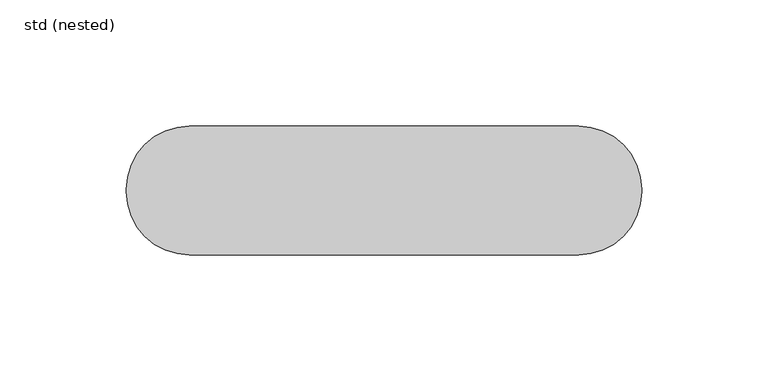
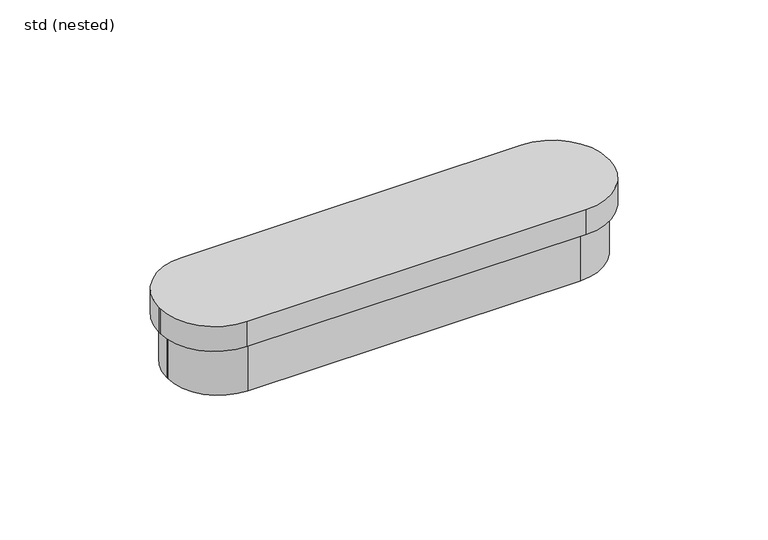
"""IFC4 building model written with IfcOpenShell, lengths in millimetres: sanitary terminal geometry, ZZZ_do not use_PF_WPB_extension ShowerDrain S+_ACO : std (nested)."""

from ifc_helpers import new_model, si_unit, point, frame, frame_2d, origin, place, context, project, spatial, polyline, circle_curve, trimmed, segment, composite_curve, outline, extrude, source, transform, mapped, element, save


def std_nested_d8f77656(model_context):
    return source(origin(), model_context, "Body", "SweptSolid", [
        extrude(outline(composite_curve([segment(trimmed(circle_curve(frame_2d((75.5, -0.5)), 23.0), [point((98.5, -0.5))], [point((75.5, -23.5))], False, "CARTESIAN"), True, "CONTINUOUS"), segment(polyline([(75.5, -23.5), (-75.5, -23.5)]), True, "CONTINUOUS"), segment(trimmed(circle_curve(frame_2d((-75.5, -0.5)), 23.0), [point((-75.5, -23.5))], [point((-98.5, -0.5))], False, "CARTESIAN"), True, "CONTINUOUS"), segment(polyline([(-98.5, -0.5), (-98.5, 0.5)]), True, "CONTINUOUS"), segment(trimmed(circle_curve(frame_2d((-75.5, 0.5)), 23.0), [point((-98.5, 0.5))], [point((-75.5, 23.5))], False, "CARTESIAN"), True, "CONTINUOUS"), segment(polyline([(-75.5, 23.5), (75.5, 23.5)]), True, "CONTINUOUS"), segment(trimmed(circle_curve(frame_2d((75.5, 0.5)), 23.0), [point((75.5, 23.5))], [point((98.5, 0.5))], False, "CARTESIAN"), True, "CONTINUOUS"), segment(polyline([(98.5, 0.5), (98.5, -0.5)]), True, "CONTINUOUS")], self_intersect=False)), frame((0.0, 0.0, -35.0), z_axis=(0.0, 0.0, 1.0), x_axis=(1.0, 0.0, 0.0)), (0.0, 0.0, 1.0), 23.0),
        extrude(outline(composite_curve([segment(trimmed(circle_curve(frame_2d((77.0, -0.5)), 25.0), [point((102.0, -0.5))], [point((77.0, -25.5))], False, "CARTESIAN"), True, "CONTINUOUS"), segment(polyline([(77.0, -25.5), (-77.0, -25.5)]), True, "CONTINUOUS"), segment(trimmed(circle_curve(frame_2d((-77.0, -0.5)), 25.0), [point((-77.0, -25.5))], [point((-102.0, -0.5))], False, "CARTESIAN"), True, "CONTINUOUS"), segment(polyline([(-102.0, -0.5), (-102.0, 0.5)]), True, "CONTINUOUS"), segment(trimmed(circle_curve(frame_2d((-77.0, 0.5)), 25.0), [point((-102.0, 0.5))], [point((-77.0, 25.5))], False, "CARTESIAN"), True, "CONTINUOUS"), segment(polyline([(-77.0, 25.5), (77.0, 25.5)]), True, "CONTINUOUS"), segment(trimmed(circle_curve(frame_2d((77.0, 0.5)), 25.0), [point((77.0, 25.5))], [point((102.0, 0.5))], False, "CARTESIAN"), True, "CONTINUOUS"), segment(polyline([(102.0, 0.5), (102.0, -0.5)]), True, "CONTINUOUS")], self_intersect=False)), frame((0.0, 0.0, -12.0), z_axis=(0.0, 0.0, 1.0), x_axis=(1.0, 0.0, 0.0)), (0.0, 0.0, 1.0), 12.0),
    ])


if __name__ == "__main__":
    model = new_model("IFC4")
    model_context = context("Model", 3, world=origin())
    ifc_project = project(units=[si_unit("LENGTHUNIT", "METRE", prefix="MILLI")], contexts=[model_context])
    site = spatial("IfcSite", under=ifc_project)
    building = spatial("IfcBuilding", under=site)
    placement = place(None, origin())
    std_nested_shape = std_nested_d8f77656(model_context)
    element("IfcSanitaryTerminal", 1, ObjectType="ZZZ_do not use_PF_WPB_extension ShowerDrain S+_ACO : std (nested)", at=placement, inside=building, context=model_context, shape_type="MappedRepresentation", body=[
        mapped(std_nested_shape, transform((0.0, 0.0, 0.0), x_axis=(1.0, 0.0, 0.0), y_axis=(0.0, 1.0, 0.0), z_axis=(0.0, 0.0, 1.0))),
    ])
    save(model, "model.ifc")
